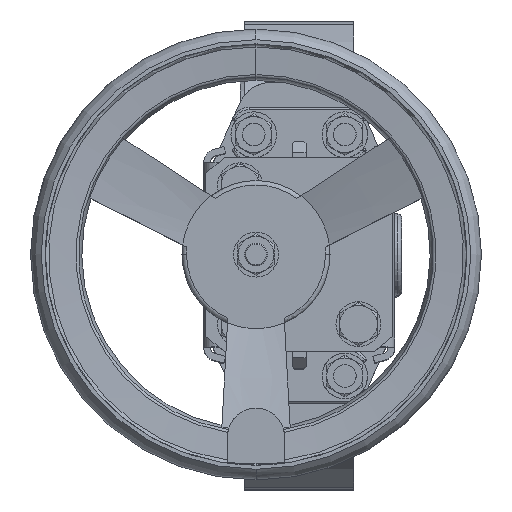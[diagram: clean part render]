
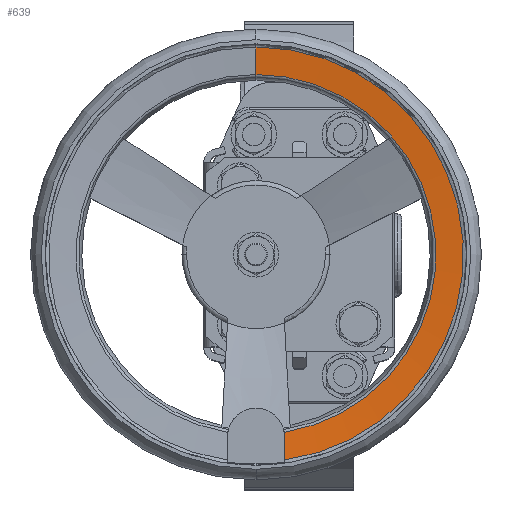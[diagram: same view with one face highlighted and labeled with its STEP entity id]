
A CAD part, top view. The second image highlights one B-rep face of the part: STEP entity #639.
In plain terms, the highlighted conical face has half-angle 85 degrees and reference radius 92.5 mm.
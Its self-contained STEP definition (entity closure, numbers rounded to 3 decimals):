
#639=ADVANCED_FACE('',(#2128),#2129,.F.);
#2128=FACE_OUTER_BOUND('',#4700,.T.);
#2129=CONICAL_SURFACE('',#4701,92.5,1.484);
#4700=EDGE_LOOP('',(#13188,#13189,#13190,#13191,#13192));
#4701=AXIS2_PLACEMENT_3D('',#13193,#13194,#13195);
#13188=ORIENTED_EDGE('',*,*,#21671,.F.);
#13189=ORIENTED_EDGE('',*,*,#21672,.T.);
#13190=ORIENTED_EDGE('',*,*,#21673,.T.);
#13191=ORIENTED_EDGE('',*,*,#21674,.T.);
#13192=ORIENTED_EDGE('',*,*,#21615,.T.);
#13193=CARTESIAN_POINT('',(-19.,0.,379.244));
#13194=DIRECTION('',(0.,0.,1.));
#13195=DIRECTION('',(0.,1.,0.));
#21615=EDGE_CURVE('',#25731,#25729,#25732,.T.);
#21671=EDGE_CURVE('',#25828,#25729,#25831,.T.);
#21672=EDGE_CURVE('',#25828,#25832,#25833,.T.);
#21673=EDGE_CURVE('',#25832,#25834,#25835,.T.);
#21674=EDGE_CURVE('',#25834,#25731,#25836,.T.);
#25729=VERTEX_POINT('',#31781);
#25731=VERTEX_POINT('',#31783);
#25732=CIRCLE('',#31784,91.131);
#25828=VERTEX_POINT('',#32003);
#25831=LINE('',#32006,#32007);
#25832=VERTEX_POINT('',#32008);
#25833=CIRCLE('',#32009,79.042);
#25834=VERTEX_POINT('',#32010);
#25835=B_SPLINE_CURVE_WITH_KNOTS('',3,(#32011,#32012,#32013,#32014),.UNSPECIFIED.,.F.,.F.,(4,4),(0.,0.002),.UNSPECIFIED.);
#25836=B_SPLINE_CURVE_WITH_KNOTS('',3,(#32015,#32016,#32017,#32018),.UNSPECIFIED.,.F.,.F.,(4,4),(0.021,0.032),.UNSPECIFIED.);
#31781=CARTESIAN_POINT('',(-19.,91.131,379.124));
#31783=CARTESIAN_POINT('',(-6.5,-90.269,379.124));
#31784=AXIS2_PLACEMENT_3D('',#41059,#41060,#41061);
#32003=CARTESIAN_POINT('',(-19.,79.042,378.067));
#32006=CARTESIAN_POINT('',(-19.,92.5,379.244));
#32007=VECTOR('',#41155,1.);
#32008=CARTESIAN_POINT('',(-6.65,-78.071,378.067));
#32009=AXIS2_PLACEMENT_3D('',#41156,#41157,#41158);
#32010=CARTESIAN_POINT('',(-6.5,-80.001,378.235));
#32011=CARTESIAN_POINT('',(-6.65,-78.071,378.067));
#32012=CARTESIAN_POINT('',(-6.55,-78.712,378.123));
#32013=CARTESIAN_POINT('',(-6.5,-79.355,378.18));
#32014=CARTESIAN_POINT('',(-6.5,-80.001,378.235));
#32015=CARTESIAN_POINT('',(-6.5,-80.001,378.235));
#32016=CARTESIAN_POINT('',(-6.5,-83.424,378.531));
#32017=CARTESIAN_POINT('',(-6.5,-86.847,378.828));
#32018=CARTESIAN_POINT('',(-6.5,-90.269,379.124));
#41059=CARTESIAN_POINT('',(-19.,0.,379.124));
#41060=DIRECTION('',(0.,0.,1.));
#41061=DIRECTION('',(0.,1.,0.));
#41155=DIRECTION('',(0.,0.996,0.087));
#41156=CARTESIAN_POINT('',(-19.,0.,378.067));
#41157=DIRECTION('',(0.,0.,-1.));
#41158=DIRECTION('',(0.,-1.,0.));
